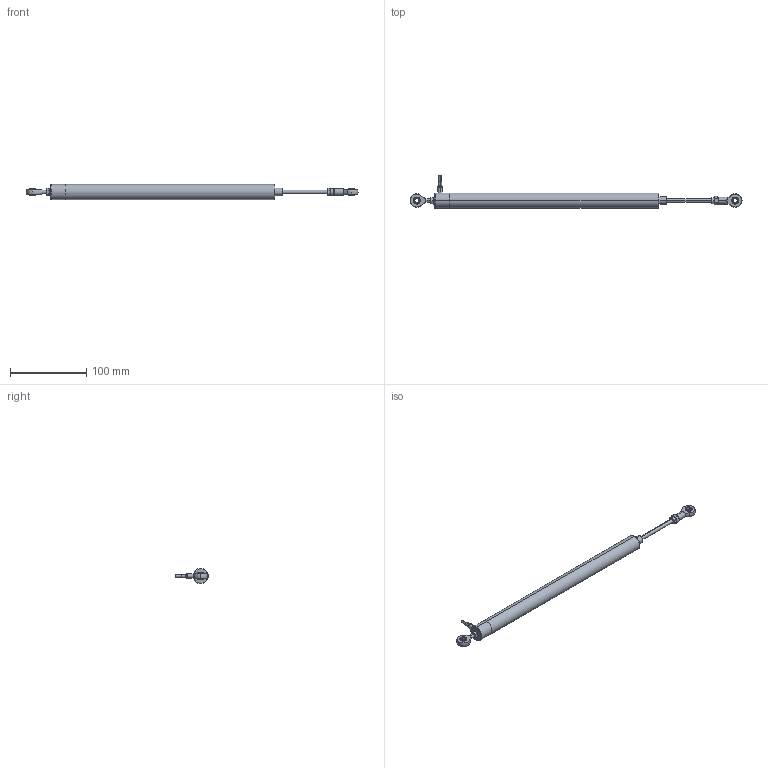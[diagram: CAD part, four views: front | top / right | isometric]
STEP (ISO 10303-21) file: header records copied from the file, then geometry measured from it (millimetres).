
FILE_DESCRIPTION(/* description */ ('Unknown'),/* implementation_level */ '2;1');
FILE_NAME(/* name */ 'LVIG-100-xxx-KRxx',/* time_stamp */ '2025-10-23T09:07:45+02:00',/* author */ ('Tobias KÃ¤tzlmeier'),/* organization */ ('WayCon Positionsmesstechnik GmbH'),/* preprocessor_version */ 'ST-DEVELOPER v18.104',/* originating_system */ 'Solid Edge',/* authorisation */ 'Unknown');
FILE_SCHEMA (('AUTOMOTIVE_DESIGN {1 0 10303 214 3 1 1}'));
Length unit declared in the file: millimetre
Products named in the file (1): LVIG-100-xxx-KRxx
Bounding box: 436 x 42.45 x 19.9 mm (x, y, z)
Volume: 98860.7 mm3; surface area: 25709.4 mm2
Topology: 7 solids, 7 shells, 134 faces, 290 edges, 176 vertices
Faces by surface type: cone 42, plane 42, cylinder 34, sphere 12, torus 4
Entity records: 3920 total; most frequent: CARTESIAN_POINT 970, DIRECTION 628, ORIENTED_EDGE 556, AXIS2_PLACEMENT_3D 281, EDGE_CURVE 278, VERTEX_POINT 168, EDGE_LOOP 150, FACE_BOUND 150
